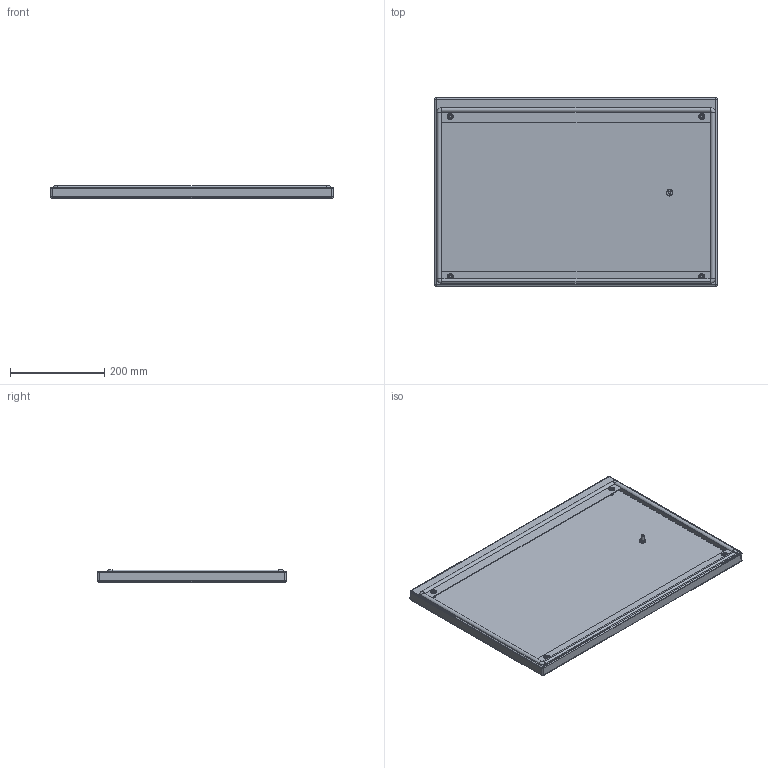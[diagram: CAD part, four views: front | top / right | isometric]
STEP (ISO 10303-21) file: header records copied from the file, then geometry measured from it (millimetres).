
FILE_DESCRIPTION (( 'STEP AP203' ), '1' );
FILE_NAME ('R 60.40 C Ïàíåëü êîíöåâàÿ íèæíåé ÷àñòè.STEP', '2013-01-14T08:29:33', ( 'Àëåêñàíäð' ), ( 'Ïðîâåíòî' ), 'SwSTEP 2.0', 'SolidWorks 2012', '' );
FILE_SCHEMA (( 'CONFIG_CONTROL_DESIGN' ));
Length unit declared in the file: millimetre
Products named in the file (1): R 60.40 C Ïàíåëü êîíöåâàÿ íèæíåé ÷àñòè
Bounding box: 600 x 400 x 27 mm (x, y, z)
Volume: 552380.7 mm3; surface area: 685434.7 mm2
Topology: 1 solids, 1 shells, 151 faces, 333 edges, 200 vertices
Faces by surface type: cylinder 63, plane 40, torus 26, cone 14, sphere 8
Entity records: 4296 total; most frequent: DIRECTION 825, CARTESIAN_POINT 749, ORIENTED_EDGE 650, AXIS2_PLACEMENT_3D 352, EDGE_CURVE 325, CIRCLE 200, VERTEX_POINT 200, EDGE_LOOP 183
